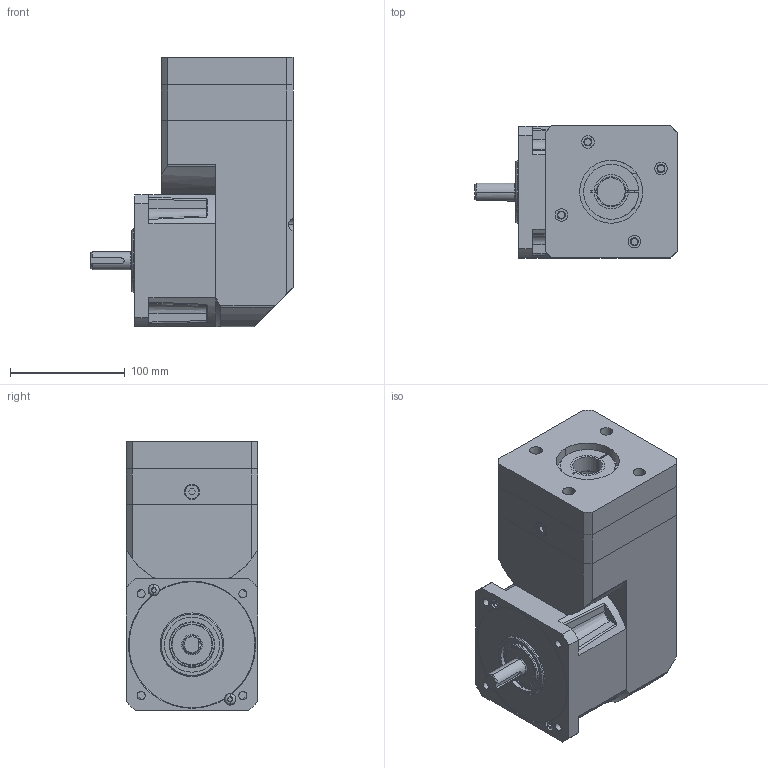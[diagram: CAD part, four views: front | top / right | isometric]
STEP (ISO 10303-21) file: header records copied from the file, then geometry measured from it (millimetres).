
FILE_DESCRIPTION((''),'2;1');
FILE_NAME('GEN_II_RX42_SHORT_ADAPT','2008-11-20T',('aza7363'),(''),'PRO/ENGINEER BY PARAMETRIC TECHNOLOGY CORPORATION, 2006300','PRO/ENGINEER BY PARAMETRIC TECHNOLOGY CORPORATION, 2006300','');
FILE_SCHEMA(('CONFIG_CONTROL_DESIGN'));
Length unit declared in the file: millimetre
Products named in the file (1): GEN_II_RX42_SHORT_ADAPT
Bounding box: 176.4 x 115 x 235 mm (x, y, z)
Surface area: 192894.1 mm2 (no closed solid volume)
Topology: 0 solids, 35 shells, 376 faces, 1084 edges, 749 vertices
Faces by surface type: plane 172, cylinder 125, bspline 40, cone 25, torus 14
Entity records: 14604 total; most frequent: CARTESIAN_POINT 4856, DIRECTION 2031, ORIENTED_EDGE 1842, EDGE_CURVE 1084, AXIS2_PLACEMENT_3D 750, VERTEX_POINT 749, VECTOR 531, LINE 531
